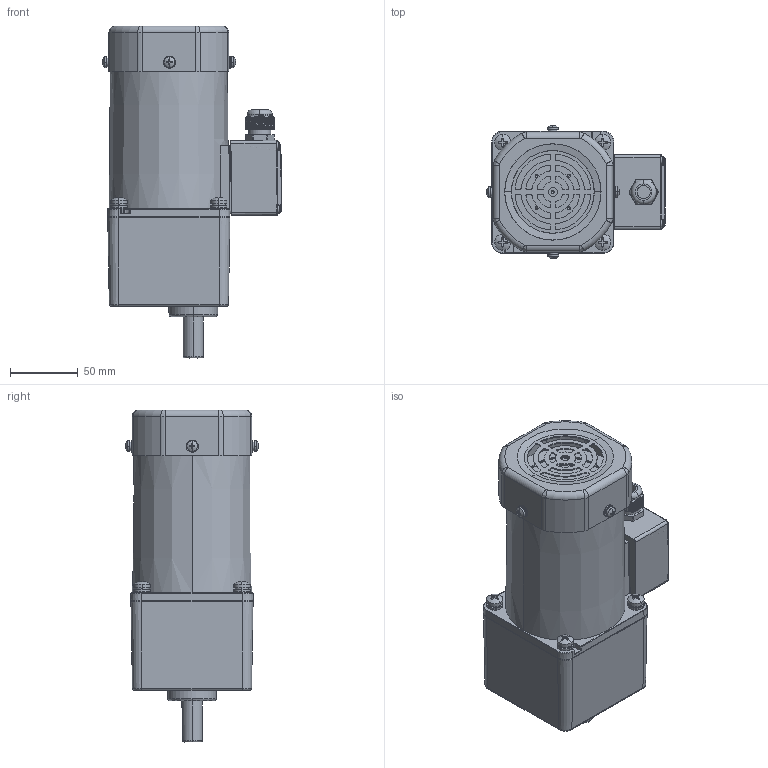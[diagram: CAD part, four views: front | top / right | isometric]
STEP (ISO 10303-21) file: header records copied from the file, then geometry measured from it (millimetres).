
FILE_DESCRIPTION (( 'STEP AP203' ), '1' );
FILE_NAME ('5IK90GU-CFT(5GU3KB-200KB).STEP', '2020-04-10T03:55:07', ( 'Windows 蚚誧' ), ( '' ), 'SwSTEP 2.0', 'SolidWorks 2019', '' );
FILE_SCHEMA (( 'CONFIG_CONTROL_DESIGN' ));
Length unit declared in the file: millimetre
Products named in the file (13): 4IK25GN-CT_8^3IK15GN-CT(3GN3K-200K）(2)_JXH-1; JXH-1; SJQ^3IK15GN-CT(3GN3K-200K）(2)_JXH-1; 90FZ; M3^3IK15GN-CT(3GN3K-200K）(2)_JXH-1; 5IK90A-CFT; PRT0002^3IK15GN-CT(3GN3K-200K）(2)_JXH-1; 5GU3KB-200KB; PRT0003^3IK15GN-CT(3GN3K-200K）(2)_JXH-1; 5IK90GU-CFT(5GU3KB-200KB); PRT0004^3IK15GN-CT(3GN3K-200K）(2)_JXH-1; 90TSJXHJK; 3IK15GN-CT(3GN3K-200K）(2)^JXH-1
Assembly tree (12 placements, depth 5):
  5IK90GU-CFT(5GU3KB-200KB)
    5IK90A-CFT
      90TSJXHJK
      JXH-1
        3IK15GN-CT(3GN3K-200K）(2)^JXH-1
          4IK25GN-CT_8^3IK15GN-CT(3GN3K-200K）(2)_JXH-1
          SJQ^3IK15GN-CT(3GN3K-200K）(2)_JXH-1
          M3^3IK15GN-CT(3GN3K-200K）(2)_JXH-1
          PRT0002^3IK15GN-CT(3GN3K-200K）(2)_JXH-1
          PRT0003^3IK15GN-CT(3GN3K-200K）(2)_JXH-1
          PRT0004^3IK15GN-CT(3GN3K-200K）(2)_JXH-1
      90FZ
    5GU3KB-200KB
Bounding box: 131.82 x 98.11 x 244.5 mm (x, y, z)
Volume: 809948.4 mm3; surface area: 198974.5 mm2
Topology: 36 solids, 37 shells, 1915 faces, 4897 edges, 3071 vertices
Faces by surface type: cylinder 710, plane 494, cone 416, torus 157, bspline 80, sphere 58
Entity records: 66843 total; most frequent: CARTESIAN_POINT 18579, DIRECTION 10479, ORIENTED_EDGE 9694, EDGE_CURVE 4847, AXIS2_PLACEMENT_3D 4337, VERTEX_POINT 3063, CIRCLE 2484, EDGE_LOOP 2040
